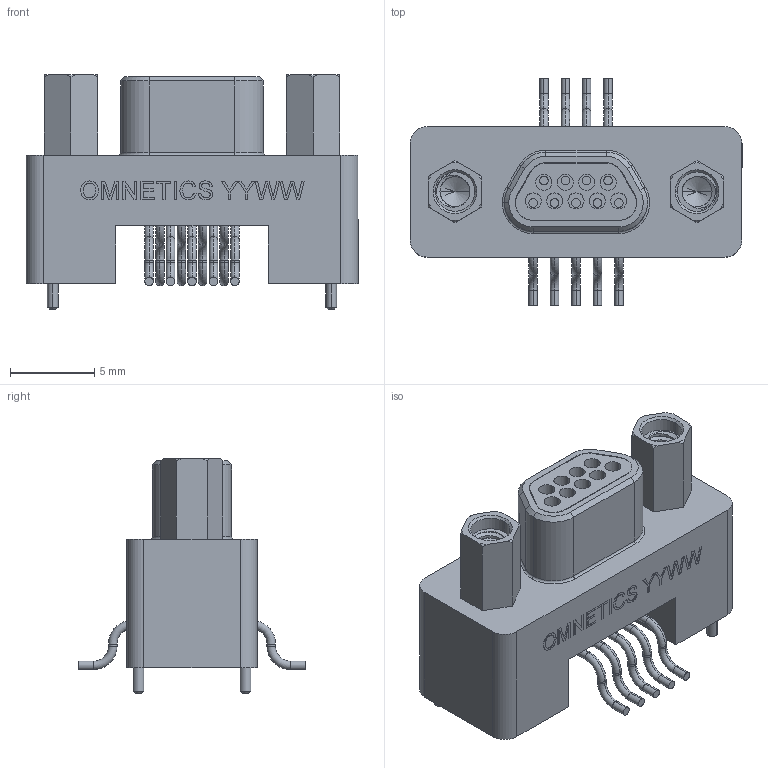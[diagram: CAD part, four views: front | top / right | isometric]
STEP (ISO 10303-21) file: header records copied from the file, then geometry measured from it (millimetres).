
FILE_DESCRIPTION (( 'STEP AP214' ), '1' );
FILE_NAME ('A98701-009 REV A.STEP', '2019-08-15T17:42:13', ( '' ), ( '' ), 'SwSTEP 2.0', 'SolidWorks 2019', '' );
FILE_SCHEMA (( 'AUTOMOTIVE_DESIGN' ));
Length unit declared in the file: inch
Products named in the file (1): A98701-009 REV A
Bounding box: 19.68 x 13.51 x 13.91 mm (x, y, z)
Volume: 981.5 mm3; surface area: 1901.5 mm2
Topology: 1 solids, 6 shells, 753 faces, 1857 edges, 1175 vertices
Faces by surface type: cylinder 295, plane 232, cone 93, bspline 74, torus 59
Entity records: 42052 total; most frequent: CARTESIAN_POINT 15402, ORIENTED_EDGE 3694, DIRECTION 3250, EDGE_CURVE 1847, AXIS2_PLACEMENT_3D 1209, VERTEX_POINT 1175, VECTOR 832, LINE 832
